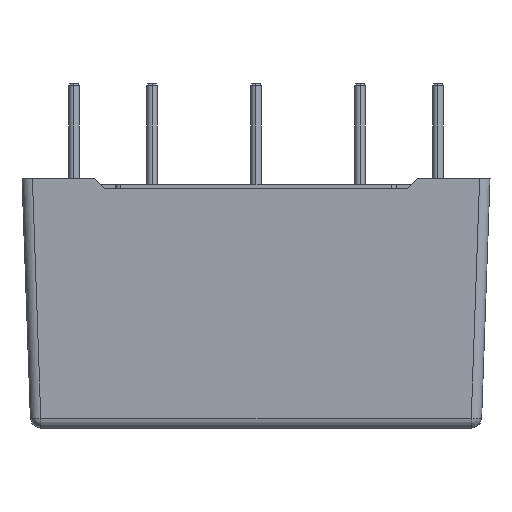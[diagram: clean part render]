
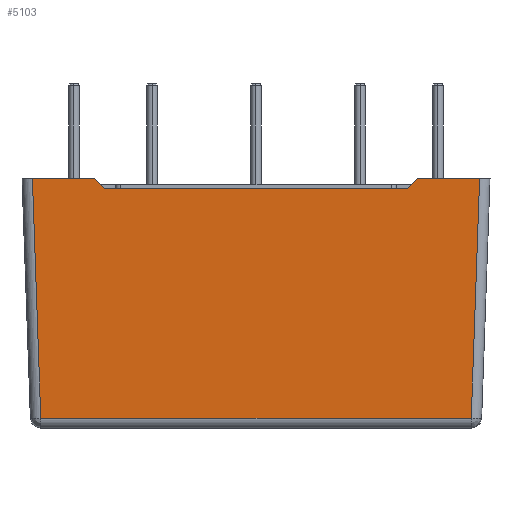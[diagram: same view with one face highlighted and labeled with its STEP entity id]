
A CAD part, left-side view. The second image highlights one B-rep face of the part: STEP entity #5103.
In plain terms, the highlighted planar face has unit normal (-0.999, 0, -0.035).
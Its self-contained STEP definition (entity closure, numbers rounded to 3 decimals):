
#130 = LINE ( 'NONE', #8263, #7852 ) ;
#236 = CARTESIAN_POINT ( 'NONE',  ( 0.804, 1.804, 0.965 ) ) ;
#526 = VECTOR ( 'NONE', #8739, 1000. ) ;
#617 = CARTESIAN_POINT ( 'NONE',  ( 0., 0.999, 24. ) ) ;
#705 = CARTESIAN_POINT ( 'NONE',  ( 0.804, 43.196, 0.965 ) ) ;
#838 = CARTESIAN_POINT ( 'NONE',  ( 0., 7., 24. ) ) ;
#880 = LINE ( 'NONE', #838, #2920 ) ;
#1052 = CARTESIAN_POINT ( 'NONE',  ( 0., 38., 24. ) ) ;
#1334 = PLANE ( 'NONE',  #8574 ) ;
#1734 = EDGE_CURVE ( 'NONE', #8153, #5618, #2799, .T. ) ;
#1797 = DIRECTION ( 'NONE',  ( 0.025, -0.694, -0.719 ) ) ;
#1910 = CARTESIAN_POINT ( 'NONE',  ( 0.035, 7.966, 23. ) ) ;
#2530 = CARTESIAN_POINT ( 'NONE',  ( 0., 38., 24. ) ) ;
#2705 = CARTESIAN_POINT ( 'NONE',  ( 0.035, 37.034, 23. ) ) ;
#2749 = CARTESIAN_POINT ( 'NONE',  ( 0.804, 1.804, 0.965 ) ) ;
#2799 = LINE ( 'NONE', #236, #526 ) ;
#2883 = VECTOR ( 'NONE', #4005, 1000. ) ;
#2910 = DIRECTION ( 'NONE',  ( -0.999, 0., -0.035 ) ) ;
#2920 = VECTOR ( 'NONE', #3165, 1000. ) ;
#2950 = EDGE_CURVE ( 'NONE', #3985, #8153, #3525, .T. ) ;
#3162 = EDGE_CURVE ( 'NONE', #5767, #9682, #880, .T. ) ;
#3165 = DIRECTION ( 'NONE',  ( 0.025, 0.694, -0.719 ) ) ;
#3273 = VECTOR ( 'NONE', #1797, 1000. ) ;
#3525 = LINE ( 'NONE', #6013, #5339 ) ;
#3600 = EDGE_CURVE ( 'NONE', #5838, #9687, #9418, .T. ) ;
#3965 = CARTESIAN_POINT ( 'NONE',  ( 0., 22.5, 24. ) ) ;
#3985 = VERTEX_POINT ( 'NONE', #705 ) ;
#4005 = DIRECTION ( 'NONE',  ( 0., -1., 0. ) ) ;
#4494 = ORIENTED_EDGE ( 'NONE', *, *, #3162, .T. ) ;
#4692 = CARTESIAN_POINT ( 'NONE',  ( 0., 7., 24. ) ) ;
#4891 = CARTESIAN_POINT ( 'NONE',  ( 0., 44.001, 24. ) ) ;
#5060 = VECTOR ( 'NONE', #6560, 1000. ) ;
#5103 = ADVANCED_FACE ( 'NONE', ( #9546 ), #1334, .T. ) ;
#5339 = VECTOR ( 'NONE', #7574, 1000. ) ;
#5370 = ORIENTED_EDGE ( 'NONE', *, *, #8034, .T. ) ;
#5618 = VERTEX_POINT ( 'NONE', #617 ) ;
#5767 = VERTEX_POINT ( 'NONE', #4692 ) ;
#5770 = CARTESIAN_POINT ( 'NONE',  ( 0.035, 22.5, 23. ) ) ;
#5838 = VERTEX_POINT ( 'NONE', #2530 ) ;
#6013 = CARTESIAN_POINT ( 'NONE',  ( 0.804, 0., 0.965 ) ) ;
#6034 = ORIENTED_EDGE ( 'NONE', *, *, #8128, .F. ) ;
#6441 = EDGE_LOOP ( 'NONE', ( #7846, #7623, #4494, #6034, #7762, #9665, #5370, #8142 ) ) ;
#6560 = DIRECTION ( 'NONE',  ( 0., -1., 0. ) ) ;
#6698 = DIRECTION ( 'NONE',  ( 0., -1., 0. ) ) ;
#6980 = LINE ( 'NONE', #3965, #2883 ) ;
#7341 = LINE ( 'NONE', #5770, #5060 ) ;
#7525 = CARTESIAN_POINT ( 'NONE',  ( 0.838, 0., 0.015 ) ) ;
#7557 = EDGE_CURVE ( 'NONE', #7741, #5838, #130, .T. ) ;
#7574 = DIRECTION ( 'NONE',  ( 0., -1., 0. ) ) ;
#7623 = ORIENTED_EDGE ( 'NONE', *, *, #9996, .F. ) ;
#7741 = VERTEX_POINT ( 'NONE', #10000 ) ;
#7762 = ORIENTED_EDGE ( 'NONE', *, *, #3600, .F. ) ;
#7846 = ORIENTED_EDGE ( 'NONE', *, *, #1734, .T. ) ;
#7852 = VECTOR ( 'NONE', #6698, 1000. ) ;
#8034 = EDGE_CURVE ( 'NONE', #7741, #3985, #9292, .T. ) ;
#8128 = EDGE_CURVE ( 'NONE', #9687, #9682, #7341, .T. ) ;
#8142 = ORIENTED_EDGE ( 'NONE', *, *, #2950, .T. ) ;
#8153 = VERTEX_POINT ( 'NONE', #2749 ) ;
#8263 = CARTESIAN_POINT ( 'NONE',  ( 0., 22.5, 24. ) ) ;
#8299 = DIRECTION ( 'NONE',  ( -0.035, 0., 0.999 ) ) ;
#8574 = AXIS2_PLACEMENT_3D ( 'NONE', #7525, #2910, #8299 ) ;
#8730 = DIRECTION ( 'NONE',  ( 0.035, -0.035, -0.999 ) ) ;
#8739 = DIRECTION ( 'NONE',  ( -0.035, -0.035, 0.999 ) ) ;
#9050 = VECTOR ( 'NONE', #8730, 1000. ) ;
#9292 = LINE ( 'NONE', #4891, #9050 ) ;
#9418 = LINE ( 'NONE', #1052, #3273 ) ;
#9546 = FACE_OUTER_BOUND ( 'NONE', #6441, .T. ) ;
#9665 = ORIENTED_EDGE ( 'NONE', *, *, #7557, .F. ) ;
#9682 = VERTEX_POINT ( 'NONE', #1910 ) ;
#9687 = VERTEX_POINT ( 'NONE', #2705 ) ;
#9996 = EDGE_CURVE ( 'NONE', #5767, #5618, #6980, .T. ) ;
#10000 = CARTESIAN_POINT ( 'NONE',  ( 0., 44.001, 24. ) ) ;
